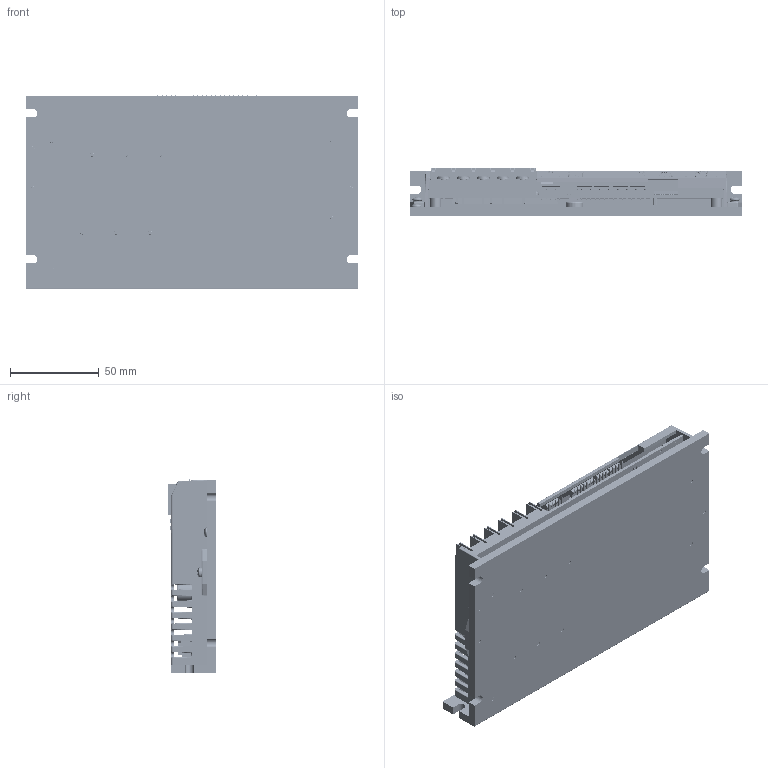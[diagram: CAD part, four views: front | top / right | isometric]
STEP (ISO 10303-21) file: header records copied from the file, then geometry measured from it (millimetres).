
FILE_DESCRIPTION((''),'2;1');
FILE_NAME('AMC_CAD_AXP_30A100','2019-05-22T',('SYSTEM'),(''),'PRO/ENGINEER BY PARAMETRIC TECHNOLOGY CORPORATION, 2016360','PRO/ENGINEER BY PARAMETRIC TECHNOLOGY CORPORATION, 2016360','');
FILE_SCHEMA(('AUTOMOTIVE_DESIGN { 1 0 10303 214 1 1 1 1 }'));
Products named in the file (1): AMC_CAD_AXP_30A100
Bounding box: 186.69 x 26.95 x 109.54 mm (x, y, z)
Volume: 206166.3 mm3; surface area: 150849.7 mm2
Topology: 1 solids, 78 shells, 7078 faces, 19217 edges, 12236 vertices
Faces by surface type: plane 3864, cylinder 1701, cone 958, extrusion 239, torus 224, bspline 48, sphere 44
Entity records: 335985 total; most frequent: CARTESIAN_POINT 56869, ORIENTED_EDGE 38398, DIRECTION 37039, PRESENTATION_STYLE_ASSIGNMENT 25049, STYLED_ITEM 19439, CURVE_STYLE 19438, EDGE_CURVE 19199, VECTOR 13137
